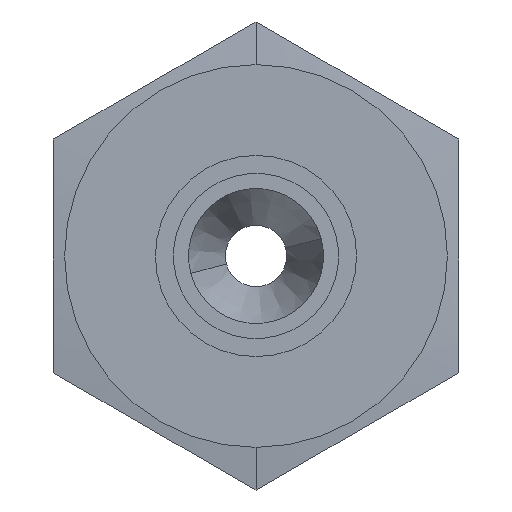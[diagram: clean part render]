
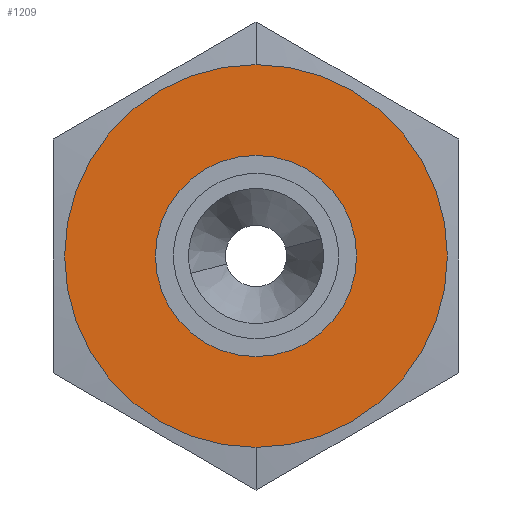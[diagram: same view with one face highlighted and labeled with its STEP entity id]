
A CAD part, left-side view. The second image highlights one B-rep face of the part: STEP entity #1209.
In plain terms, the highlighted planar face has unit normal (-1, 0, 0).
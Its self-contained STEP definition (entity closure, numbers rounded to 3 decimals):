
#21 = DIRECTION ( 'NONE',  ( 1., 0., 0. ) ) ;
#38 = CIRCLE ( 'NONE', #626, 12.75 ) ;
#56 = ORIENTED_EDGE ( 'NONE', *, *, #744, .F. ) ;
#178 = DIRECTION ( 'NONE',  ( -1., 0., 0. ) ) ;
#225 = CARTESIAN_POINT ( 'NONE',  ( 13.8, 0., 0. ) ) ;
#232 = AXIS2_PLACEMENT_3D ( 'NONE', #225, #1056, #594 ) ;
#432 = DIRECTION ( 'NONE',  ( -1., 0., 0. ) ) ;
#466 = EDGE_CURVE ( 'NONE', #1102, #907, #38, .T. ) ;
#480 = ORIENTED_EDGE ( 'NONE', *, *, #466, .T. ) ;
#510 = DIRECTION ( 'NONE',  ( 0., 0., 1. ) ) ;
#521 = DIRECTION ( 'NONE',  ( 0., 0., 1. ) ) ;
#542 = EDGE_LOOP ( 'NONE', ( #1161, #480 ) ) ;
#590 = AXIS2_PLACEMENT_3D ( 'NONE', #627, #1125, #510 ) ;
#594 = DIRECTION ( 'NONE',  ( 0., 0., 1. ) ) ;
#603 = CARTESIAN_POINT ( 'NONE',  ( 13.8, 0., 0. ) ) ;
#611 = CARTESIAN_POINT ( 'NONE',  ( 13.8, 0., -6.7 ) ) ;
#626 = AXIS2_PLACEMENT_3D ( 'NONE', #781, #178, #938 ) ;
#627 = CARTESIAN_POINT ( 'NONE',  ( 13.8, 0., 0. ) ) ;
#658 = CARTESIAN_POINT ( 'NONE',  ( 13.8, 0., -12.75 ) ) ;
#744 = EDGE_CURVE ( 'NONE', #1053, #1191, #1225, .T. ) ;
#750 = AXIS2_PLACEMENT_3D ( 'NONE', #976, #21, #843 ) ;
#781 = CARTESIAN_POINT ( 'NONE',  ( 13.8, 0., 0. ) ) ;
#806 = ORIENTED_EDGE ( 'NONE', *, *, #1351, .F. ) ;
#816 = CARTESIAN_POINT ( 'NONE',  ( 13.8, 0., 12.75 ) ) ;
#843 = DIRECTION ( 'NONE',  ( 0., 0., -1. ) ) ;
#850 = FACE_OUTER_BOUND ( 'NONE', #542, .T. ) ;
#876 = CIRCLE ( 'NONE', #590, 6.7 ) ;
#907 = VERTEX_POINT ( 'NONE', #658 ) ;
#938 = DIRECTION ( 'NONE',  ( 0., 0., 1. ) ) ;
#972 = AXIS2_PLACEMENT_3D ( 'NONE', #603, #432, #521 ) ;
#976 = CARTESIAN_POINT ( 'NONE',  ( 13.8, 16., 0. ) ) ;
#983 = CARTESIAN_POINT ( 'NONE',  ( 13.8, 0., 6.7 ) ) ;
#1053 = VERTEX_POINT ( 'NONE', #611 ) ;
#1056 = DIRECTION ( 'NONE',  ( -1., 0., 0. ) ) ;
#1060 = FACE_BOUND ( 'NONE', #1143, .T. ) ;
#1102 = VERTEX_POINT ( 'NONE', #816 ) ;
#1125 = DIRECTION ( 'NONE',  ( -1., 0., 0. ) ) ;
#1143 = EDGE_LOOP ( 'NONE', ( #806, #56 ) ) ;
#1161 = ORIENTED_EDGE ( 'NONE', *, *, #1286, .T. ) ;
#1191 = VERTEX_POINT ( 'NONE', #983 ) ;
#1200 = PLANE ( 'NONE',  #750 ) ;
#1209 = ADVANCED_FACE ( 'NONE', ( #1060, #850 ), #1200, .F. ) ;
#1225 = CIRCLE ( 'NONE', #232, 6.7 ) ;
#1280 = CIRCLE ( 'NONE', #972, 12.75 ) ;
#1286 = EDGE_CURVE ( 'NONE', #907, #1102, #1280, .T. ) ;
#1351 = EDGE_CURVE ( 'NONE', #1191, #1053, #876, .T. ) ;
